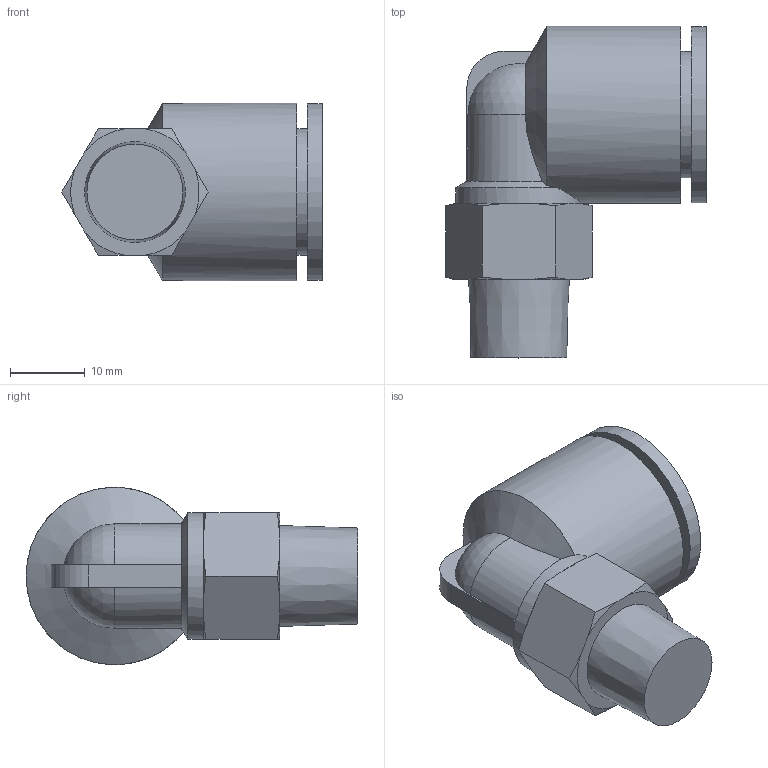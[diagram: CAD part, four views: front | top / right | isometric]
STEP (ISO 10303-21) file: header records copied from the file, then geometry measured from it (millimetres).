
FILE_DESCRIPTION(/* description */ ('STEP AP214'),/* implementation_level */ '2;1');
FILE_NAME(/* name */ 'KQ2L16-02AS',/* time_stamp */ '2023-03-09T07:30:17+01:00',/* author */ ('License CC BY-ND 4.0'),/* organization */ ('CADENAS'),/* preprocessor_version */ 'ST-DEVELOPER v18.102',/* originating_system */ 'PARTsolutions',/* authorisation */ ' ');
FILE_SCHEMA (('AUTOMOTIVE_DESIGN {1 0 10303 214 3 1 1}'));
Length unit declared in the file: millimetre
Products named in the file (1): KQ2L16-02AS
Bounding box: 34.91 x 44.49 x 23.78 mm (x, y, z)
Volume: 11658.5 mm3; surface area: 5545.8 mm2
Topology: 1 solids, 1 shells, 48 faces, 119 edges, 77 vertices
Faces by surface type: plane 24, cone 15, cylinder 7, sphere 2
Full cylindrical faces by diameter (mm): 16 x1, 16.95 x1, 17 x1, 23.6 x1, 23.78 x1
Entity records: 1442 total; most frequent: CARTESIAN_POINT 343, ORIENTED_EDGE 220, DIRECTION 214, EDGE_CURVE 110, AXIS2_PLACEMENT_3D 89, VERTEX_POINT 74, EDGE_LOOP 58, FACE_BOUND 58
